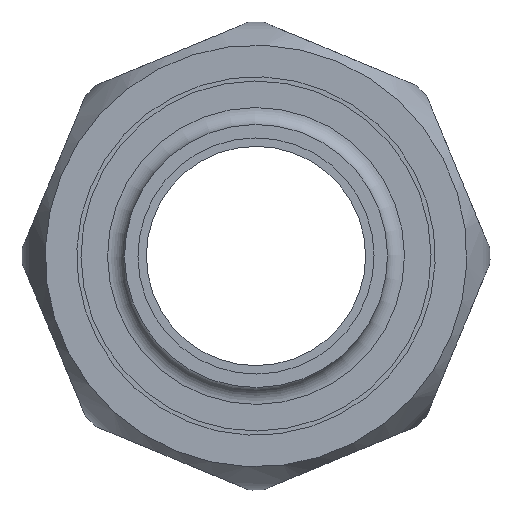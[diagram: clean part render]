
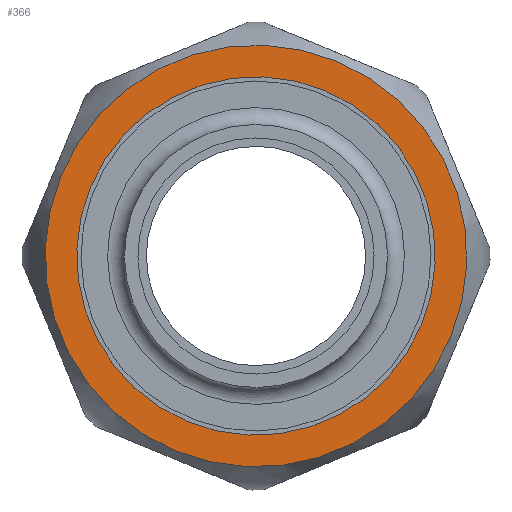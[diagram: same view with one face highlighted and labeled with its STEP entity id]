
A CAD part, left-side view. The second image highlights one B-rep face of the part: STEP entity #366.
In plain terms, the highlighted planar face has unit normal (-1, 0, 0) as drawn and (1, 0, 0) by its records, which use the part's own axes.
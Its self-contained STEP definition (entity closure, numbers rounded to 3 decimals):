
#58=FACE_BOUND('',#154,.T.);
#81=CIRCLE('',#404,25.);
#82=CIRCLE('',#405,25.);
#83=CIRCLE('',#407,21.25);
#113=FACE_OUTER_BOUND('',#153,.T.);
#153=EDGE_LOOP('',(#299,#300));
#154=EDGE_LOOP('',(#301));
#212=VERTEX_POINT('',#1219);
#213=VERTEX_POINT('',#1220);
#214=VERTEX_POINT('',#1230);
#245=EDGE_CURVE('',#212,#213,#81,.T.);
#246=EDGE_CURVE('',#213,#212,#82,.T.);
#249=EDGE_CURVE('',#214,#214,#83,.T.);
#299=ORIENTED_EDGE('',*,*,#245,.T.);
#300=ORIENTED_EDGE('',*,*,#246,.T.);
#301=ORIENTED_EDGE('',*,*,#249,.F.);
#345=PLANE('',#406);
#366=ADVANCED_FACE('',(#113,#58),#345,.T.);
#404=AXIS2_PLACEMENT_3D('',#1221,#481,#482);
#405=AXIS2_PLACEMENT_3D('',#1222,#483,#484);
#406=AXIS2_PLACEMENT_3D('',#1229,#485,#486);
#407=AXIS2_PLACEMENT_3D('',#1231,#487,#488);
#481=DIRECTION('center_axis',(1.,0.,0.));
#482=DIRECTION('ref_axis',(0.,1.,0.));
#483=DIRECTION('center_axis',(1.,0.,0.));
#484=DIRECTION('ref_axis',(0.,1.,0.));
#485=DIRECTION('center_axis',(1.,0.,0.));
#486=DIRECTION('ref_axis',(0.,0.,-1.));
#487=DIRECTION('center_axis',(1.,0.,0.));
#488=DIRECTION('ref_axis',(0.,1.,0.));
#1219=CARTESIAN_POINT('',(19.,25.,0.));
#1220=CARTESIAN_POINT('',(19.,0.,25.));
#1221=CARTESIAN_POINT('Origin',(19.,0.,0.));
#1222=CARTESIAN_POINT('Origin',(19.,0.,0.));
#1229=CARTESIAN_POINT('Origin',(19.,23.125,0.));
#1230=CARTESIAN_POINT('',(19.,21.25,0.));
#1231=CARTESIAN_POINT('Origin',(19.,0.,0.));
